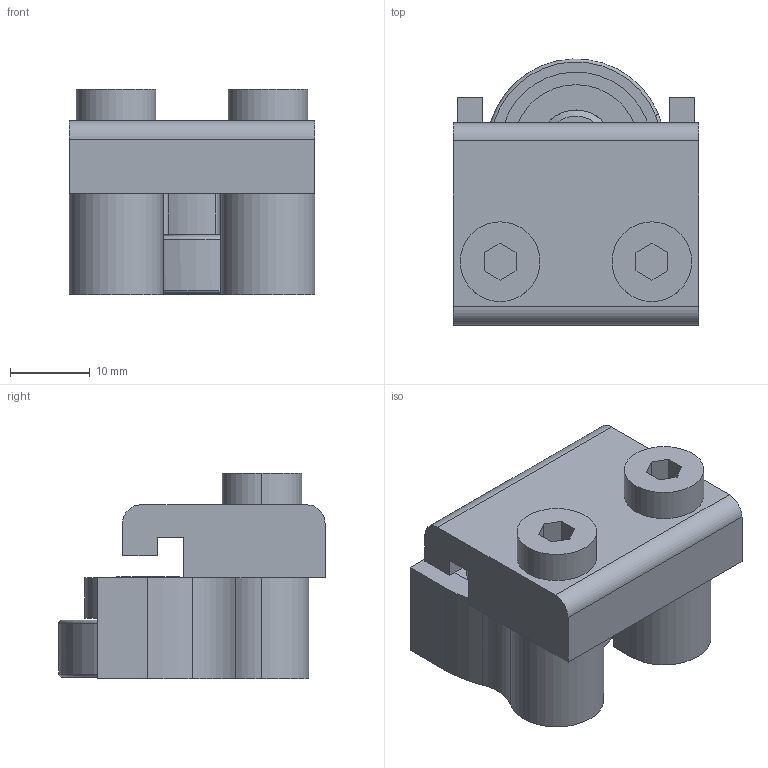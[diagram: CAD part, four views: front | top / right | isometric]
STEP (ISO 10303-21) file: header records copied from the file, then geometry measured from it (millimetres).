
FILE_DESCRIPTION((''),'2;1');
FILE_NAME('240830_ASM','2023-03-03T',('jenni.wallner'),(''),'PRO/ENGINEER BY PARAMETRIC TECHNOLOGY CORPORATION, 2012420','PRO/ENGINEER BY PARAMETRIC TECHNOLOGY CORPORATION, 2012420','');
FILE_SCHEMA(('CONFIG_CONTROL_DESIGN'));
Length unit declared in the file: inch
Products named in the file (7): 913-100; 240825_CAE; X920693M; 240827_CAE; 802-027; ASM0001_ASM; 240830_ASM
Assembly tree (7 placements, depth 3):
  240830_ASM
    ASM0001_ASM
      913-100
      240825_CAE
      X920693M  x2
      240827_CAE
      802-027
Bounding box: 30.86 x 33.39 x 25.84 mm (x, y, z)
Volume: 14381.5 mm3; surface area: 9386.9 mm2
Topology: 6 solids, 6 shells, 110 faces, 284 edges, 192 vertices
Faces by surface type: plane 50, cylinder 48, torus 8, cone 4
Entity records: 3294 total; most frequent: DIRECTION 616, CARTESIAN_POINT 542, ORIENTED_EDGE 508, EDGE_CURVE 254, AXIS2_PLACEMENT_3D 246, VERTEX_POINT 172, CIRCLE 130, VECTOR 124
